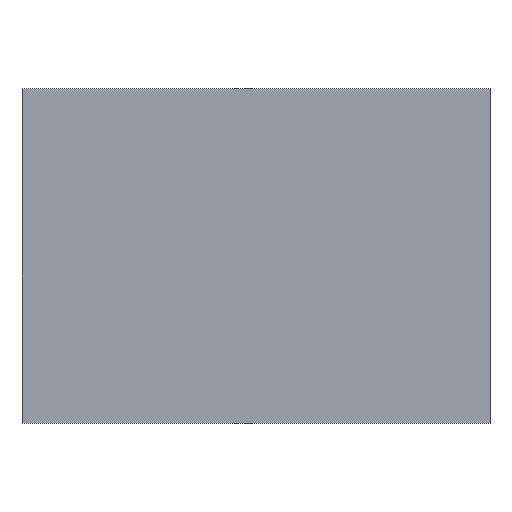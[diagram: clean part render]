
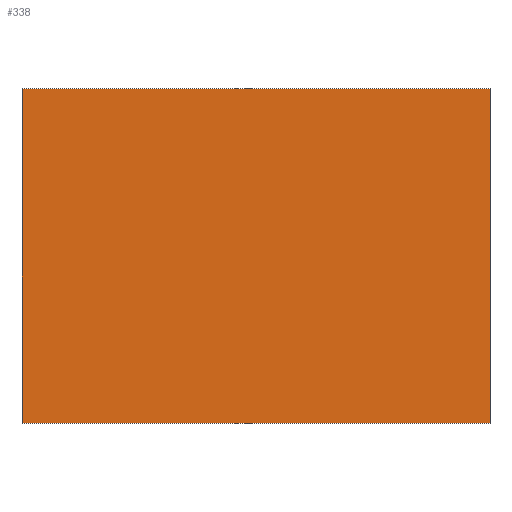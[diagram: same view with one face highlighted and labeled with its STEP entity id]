
A CAD part, top view. The second image highlights one B-rep face of the part: STEP entity #338.
In plain terms, the highlighted planar face has unit normal (0, 0, 1).
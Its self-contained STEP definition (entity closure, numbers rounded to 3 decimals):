
#24 = VERTEX_POINT('',#25);
#25 = CARTESIAN_POINT('',(-350.,-250.,15.));
#32 = PLANE('',#33);
#33 = AXIS2_PLACEMENT_3D('',#34,#35,#36);
#34 = CARTESIAN_POINT('',(-350.,-250.,-15.));
#35 = DIRECTION('',(1.,0.,0.));
#36 = DIRECTION('',(0.,0.,1.));
#44 = PLANE('',#45);
#45 = AXIS2_PLACEMENT_3D('',#46,#47,#48);
#46 = CARTESIAN_POINT('',(-350.,-250.,-15.));
#47 = DIRECTION('',(0.,1.,0.));
#48 = DIRECTION('',(0.,0.,1.));
#85 = VERTEX_POINT('',#86);
#86 = CARTESIAN_POINT('',(-350.,250.,15.));
#100 = PLANE('',#101);
#101 = AXIS2_PLACEMENT_3D('',#102,#103,#104);
#102 = CARTESIAN_POINT('',(-350.,250.,-15.));
#103 = DIRECTION('',(0.,1.,0.));
#104 = DIRECTION('',(0.,0.,1.));
#112 = EDGE_CURVE('',#24,#85,#113,.T.);
#113 = SURFACE_CURVE('',#114,(#118,#125),.PCURVE_S1.);
#114 = LINE('',#115,#116);
#115 = CARTESIAN_POINT('',(-350.,-250.,15.));
#116 = VECTOR('',#117,1.);
#117 = DIRECTION('',(0.,1.,0.));
#118 = PCURVE('',#32,#119);
#119 = DEFINITIONAL_REPRESENTATION('',(#120),#124);
#120 = LINE('',#121,#122);
#121 = CARTESIAN_POINT('',(30.,0.));
#122 = VECTOR('',#123,1.);
#123 = DIRECTION('',(0.,-1.));
#124 = ( GEOMETRIC_REPRESENTATION_CONTEXT(2) 
PARAMETRIC_REPRESENTATION_CONTEXT() REPRESENTATION_CONTEXT('2D SPACE',''
  ) );
#125 = PCURVE('',#126,#131);
#126 = PLANE('',#127);
#127 = AXIS2_PLACEMENT_3D('',#128,#129,#130);
#128 = CARTESIAN_POINT('',(-350.,-250.,15.));
#129 = DIRECTION('',(0.,0.,1.));
#130 = DIRECTION('',(1.,0.,0.));
#131 = DEFINITIONAL_REPRESENTATION('',(#132),#136);
#132 = LINE('',#133,#134);
#133 = CARTESIAN_POINT('',(0.,0.));
#134 = VECTOR('',#135,1.);
#135 = DIRECTION('',(0.,1.));
#136 = ( GEOMETRIC_REPRESENTATION_CONTEXT(2) 
PARAMETRIC_REPRESENTATION_CONTEXT() REPRESENTATION_CONTEXT('2D SPACE',''
  ) );
#144 = VERTEX_POINT('',#145);
#145 = CARTESIAN_POINT('',(350.,-250.,15.));
#152 = PLANE('',#153);
#153 = AXIS2_PLACEMENT_3D('',#154,#155,#156);
#154 = CARTESIAN_POINT('',(350.,-250.,-15.));
#155 = DIRECTION('',(1.,0.,0.));
#156 = DIRECTION('',(0.,0.,1.));
#195 = VERTEX_POINT('',#196);
#196 = CARTESIAN_POINT('',(350.,250.,15.));
#217 = EDGE_CURVE('',#144,#195,#218,.T.);
#218 = SURFACE_CURVE('',#219,(#223,#230),.PCURVE_S1.);
#219 = LINE('',#220,#221);
#220 = CARTESIAN_POINT('',(350.,-250.,15.));
#221 = VECTOR('',#222,1.);
#222 = DIRECTION('',(0.,1.,0.));
#223 = PCURVE('',#152,#224);
#224 = DEFINITIONAL_REPRESENTATION('',(#225),#229);
#225 = LINE('',#226,#227);
#226 = CARTESIAN_POINT('',(30.,0.));
#227 = VECTOR('',#228,1.);
#228 = DIRECTION('',(0.,-1.));
#229 = ( GEOMETRIC_REPRESENTATION_CONTEXT(2) 
PARAMETRIC_REPRESENTATION_CONTEXT() REPRESENTATION_CONTEXT('2D SPACE',''
  ) );
#230 = PCURVE('',#126,#231);
#231 = DEFINITIONAL_REPRESENTATION('',(#232),#236);
#232 = LINE('',#233,#234);
#233 = CARTESIAN_POINT('',(700.,0.));
#234 = VECTOR('',#235,1.);
#235 = DIRECTION('',(0.,1.));
#236 = ( GEOMETRIC_REPRESENTATION_CONTEXT(2) 
PARAMETRIC_REPRESENTATION_CONTEXT() REPRESENTATION_CONTEXT('2D SPACE',''
  ) );
#263 = EDGE_CURVE('',#24,#144,#264,.T.);
#264 = SURFACE_CURVE('',#265,(#269,#276),.PCURVE_S1.);
#265 = LINE('',#266,#267);
#266 = CARTESIAN_POINT('',(-350.,-250.,15.));
#267 = VECTOR('',#268,1.);
#268 = DIRECTION('',(1.,0.,0.));
#269 = PCURVE('',#44,#270);
#270 = DEFINITIONAL_REPRESENTATION('',(#271),#275);
#271 = LINE('',#272,#273);
#272 = CARTESIAN_POINT('',(30.,0.));
#273 = VECTOR('',#274,1.);
#274 = DIRECTION('',(0.,1.));
#275 = ( GEOMETRIC_REPRESENTATION_CONTEXT(2) 
PARAMETRIC_REPRESENTATION_CONTEXT() REPRESENTATION_CONTEXT('2D SPACE',''
  ) );
#276 = PCURVE('',#126,#277);
#277 = DEFINITIONAL_REPRESENTATION('',(#278),#282);
#278 = LINE('',#279,#280);
#279 = CARTESIAN_POINT('',(0.,0.));
#280 = VECTOR('',#281,1.);
#281 = DIRECTION('',(1.,0.));
#282 = ( GEOMETRIC_REPRESENTATION_CONTEXT(2) 
PARAMETRIC_REPRESENTATION_CONTEXT() REPRESENTATION_CONTEXT('2D SPACE',''
  ) );
#310 = EDGE_CURVE('',#85,#195,#311,.T.);
#311 = SURFACE_CURVE('',#312,(#316,#323),.PCURVE_S1.);
#312 = LINE('',#313,#314);
#313 = CARTESIAN_POINT('',(-350.,250.,15.));
#314 = VECTOR('',#315,1.);
#315 = DIRECTION('',(1.,0.,0.));
#316 = PCURVE('',#100,#317);
#317 = DEFINITIONAL_REPRESENTATION('',(#318),#322);
#318 = LINE('',#319,#320);
#319 = CARTESIAN_POINT('',(30.,0.));
#320 = VECTOR('',#321,1.);
#321 = DIRECTION('',(0.,1.));
#322 = ( GEOMETRIC_REPRESENTATION_CONTEXT(2) 
PARAMETRIC_REPRESENTATION_CONTEXT() REPRESENTATION_CONTEXT('2D SPACE',''
  ) );
#323 = PCURVE('',#126,#324);
#324 = DEFINITIONAL_REPRESENTATION('',(#325),#329);
#325 = LINE('',#326,#327);
#326 = CARTESIAN_POINT('',(0.,500.));
#327 = VECTOR('',#328,1.);
#328 = DIRECTION('',(1.,0.));
#329 = ( GEOMETRIC_REPRESENTATION_CONTEXT(2) 
PARAMETRIC_REPRESENTATION_CONTEXT() REPRESENTATION_CONTEXT('2D SPACE',''
  ) );
#338 = ADVANCED_FACE('',(#339),#126,.T.);
#339 = FACE_BOUND('',#340,.T.);
#340 = EDGE_LOOP('',(#341,#342,#343,#344));
#341 = ORIENTED_EDGE('',*,*,#112,.F.);
#342 = ORIENTED_EDGE('',*,*,#263,.T.);
#343 = ORIENTED_EDGE('',*,*,#217,.T.);
#344 = ORIENTED_EDGE('',*,*,#310,.F.);
